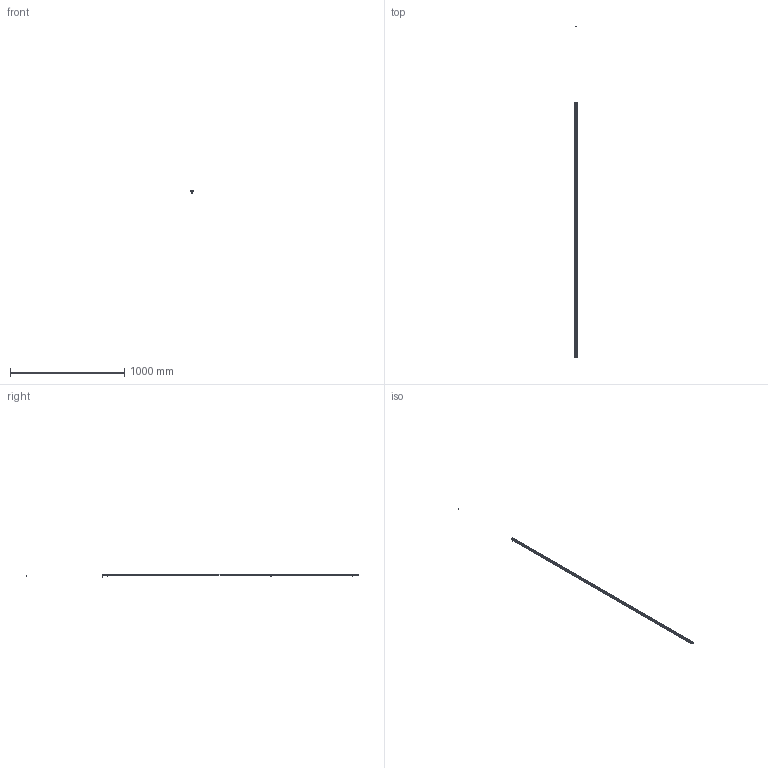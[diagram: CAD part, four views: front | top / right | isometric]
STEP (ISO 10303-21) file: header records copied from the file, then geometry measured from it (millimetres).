
FILE_DESCRIPTION (( 'STEP AP214' ), '1' );
FILE_NAME ('ILGA-B-K1a-2240mm.STEP', '2026-04-24T22:53:52', ( '' ), ( '' ), 'SwSTEP 2.0', 'SolidWorks 2025', '' );
FILE_SCHEMA (( 'AUTOMOTIVE_DESIGN' ));
Length unit declared in the file: millimetre
Products named in the file (1): ILGA-B-K1a-2240mm
Bounding box: 22.4 x 2905.5 x 34.2 mm (x, y, z)
Volume: 167889.8 mm3; surface area: 303471 mm2
Topology: 13 solids, 13 shells, 728 faces, 1866 edges, 1142 vertices
Faces by surface type: plane 314, cylinder 270, cone 60, torus 44, bspline 24, sphere 16
Entity records: 30387 total; most frequent: CARTESIAN_POINT 4637, DIRECTION 3846, ORIENTED_EDGE 3644, EDGE_CURVE 1822, AXIS2_PLACEMENT_3D 1439, VERTEX_POINT 1142, VECTOR 968, LINE 968
